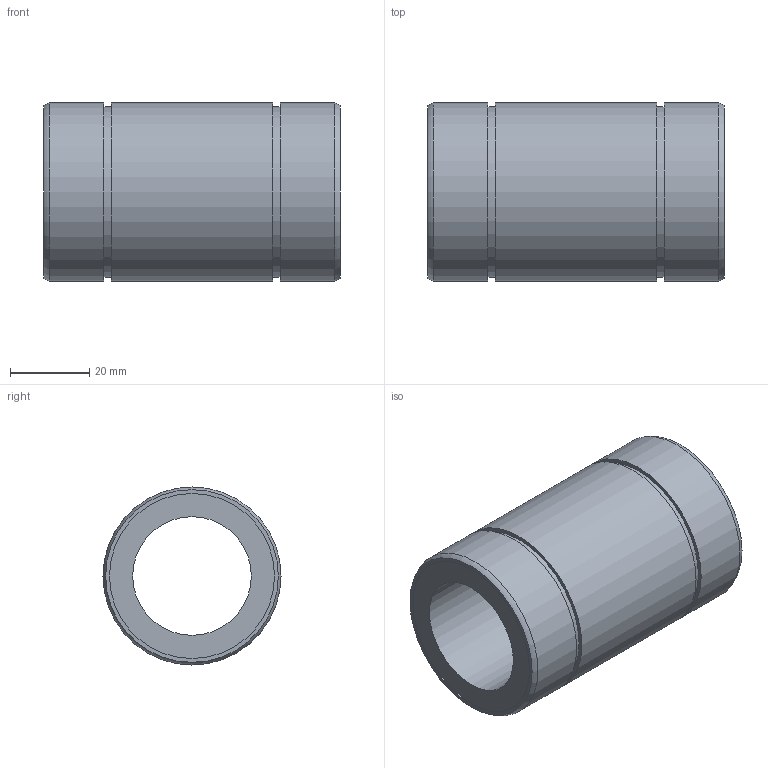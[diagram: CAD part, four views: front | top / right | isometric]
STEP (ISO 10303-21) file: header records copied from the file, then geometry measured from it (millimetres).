
FILE_DESCRIPTION((''),'2;1');
FILE_NAME('D:\製品 (図面)\カタログ用3D\メンテナンスフリー関連\STEP形式\L-MF\L30MF.stp','2010-06-01T16:13:37',('Tsuchiya'),(''),'Autodesk Inventor 10','Autodesk Inventor 10','');
FILE_SCHEMA(('AUTOMOTIVE_DESIGN { 1 0 10303 214 1 1 1 1 }'));
Length unit declared in the file: millimetre
Products named in the file (1): L30MF
Bounding box: 75 x 45 x 45 mm (x, y, z)
Volume: 65513.6 mm3; surface area: 19828.3 mm2
Topology: 1 solids, 1 shells, 18 faces, 28 edges, 18 vertices
Faces by surface type: cylinder 8, plane 8, torus 2
Full cylindrical faces by diameter (mm): 30 x1, 41.7 x2, 43 x2, 45 x3
Entity records: 391 total; most frequent: DIRECTION 74, CARTESIAN_POINT 55, AXIS2_PLACEMENT_3D 37, ORIENTED_EDGE 36, EDGE_LOOP 36, VERTEX_POINT 18, CIRCLE 18, EDGE_CURVE 18
